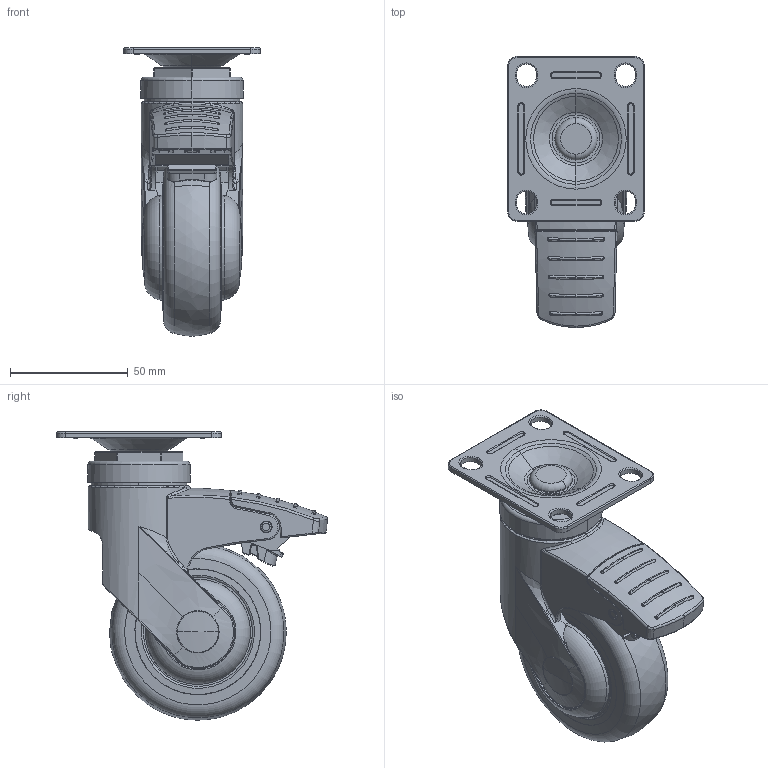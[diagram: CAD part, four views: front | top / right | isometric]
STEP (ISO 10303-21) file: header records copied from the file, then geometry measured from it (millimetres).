
FILE_DESCRIPTION((''),'2;1');
FILE_NAME('ZZT-75MM-SC','2022-04-22T',('100990349'),(''),'PRO/ENGINEER BY PARAMETRIC TECHNOLOGY CORPORATION, 2007450','PRO/ENGINEER BY PARAMETRIC TECHNOLOGY CORPORATION, 2007450','');
FILE_SCHEMA(('CONFIG_CONTROL_DESIGN'));
Length unit declared in the file: millimetre
Products named in the file (1): ZZT-75MM-SC
Bounding box: 58 x 115.03 x 122.35 mm (x, y, z)
Volume: 244011.8 mm3; surface area: 41674.3 mm2
Topology: 1 solids, 8 shells, 802 faces, 2199 edges, 1417 vertices
Faces by surface type: bspline 241, plane 201, cylinder 192, torus 115, cone 25, sphere 20, extrusion 8
Entity records: 34942 total; most frequent: CARTESIAN_POINT 16471, ORIENTED_EDGE 4362, DIRECTION 3204, EDGE_CURVE 2181, VERTEX_POINT 1417, AXIS2_PLACEMENT_3D 1293, B_SPLINE_CURVE_WITH_KNOTS 839, EDGE_LOOP 838
